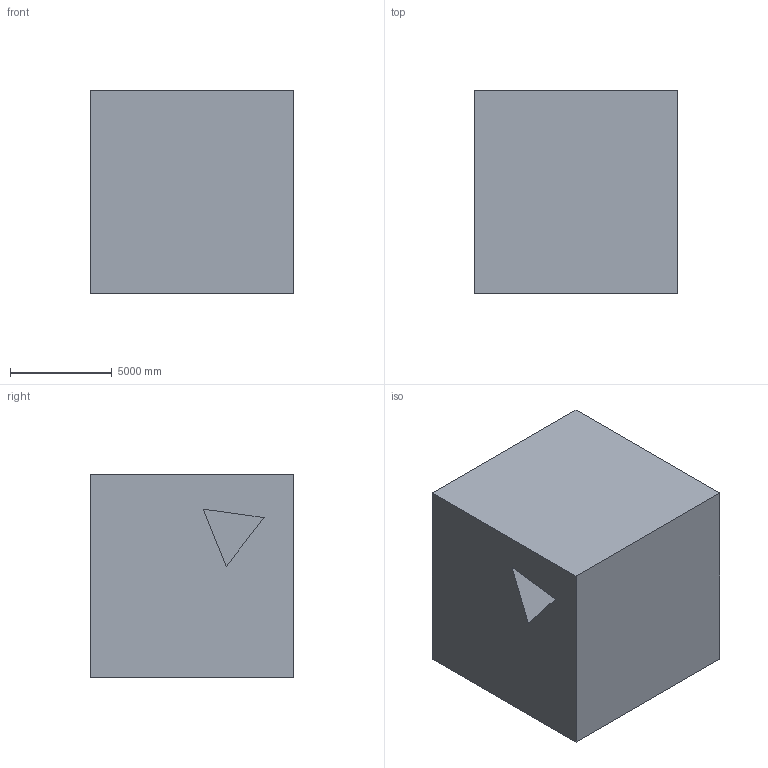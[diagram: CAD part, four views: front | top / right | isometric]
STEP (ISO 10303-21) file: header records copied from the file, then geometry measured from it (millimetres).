
FILE_DESCRIPTION (( 'STEP AP203' ), '1' );
FILE_NAME ('199.STEP', '2022-07-28T13:52:51', ( 'user' ), ( '' ), 'SwSTEP 2.0', 'SolidWorks 2021', '' );
FILE_SCHEMA (( 'CONFIG_CONTROL_DESIGN' ));
Length unit declared in the file: centimetre
Products named in the file (1): 199
Bounding box: 10000 x 10000 x 10000 mm (x, y, z)
Volume: 942429879044.2 mm3; surface area: 731431490.5 mm2
Topology: 1 solids, 1 shells, 17 faces, 39 edges, 26 vertices
Faces by surface type: plane 17
Entity records: 550 total; most frequent: CARTESIAN_POINT 83, ORIENTED_EDGE 78, DIRECTION 75, LINE 39, EDGE_CURVE 39, VECTOR 39, VERTEX_POINT 26, EDGE_LOOP 19
